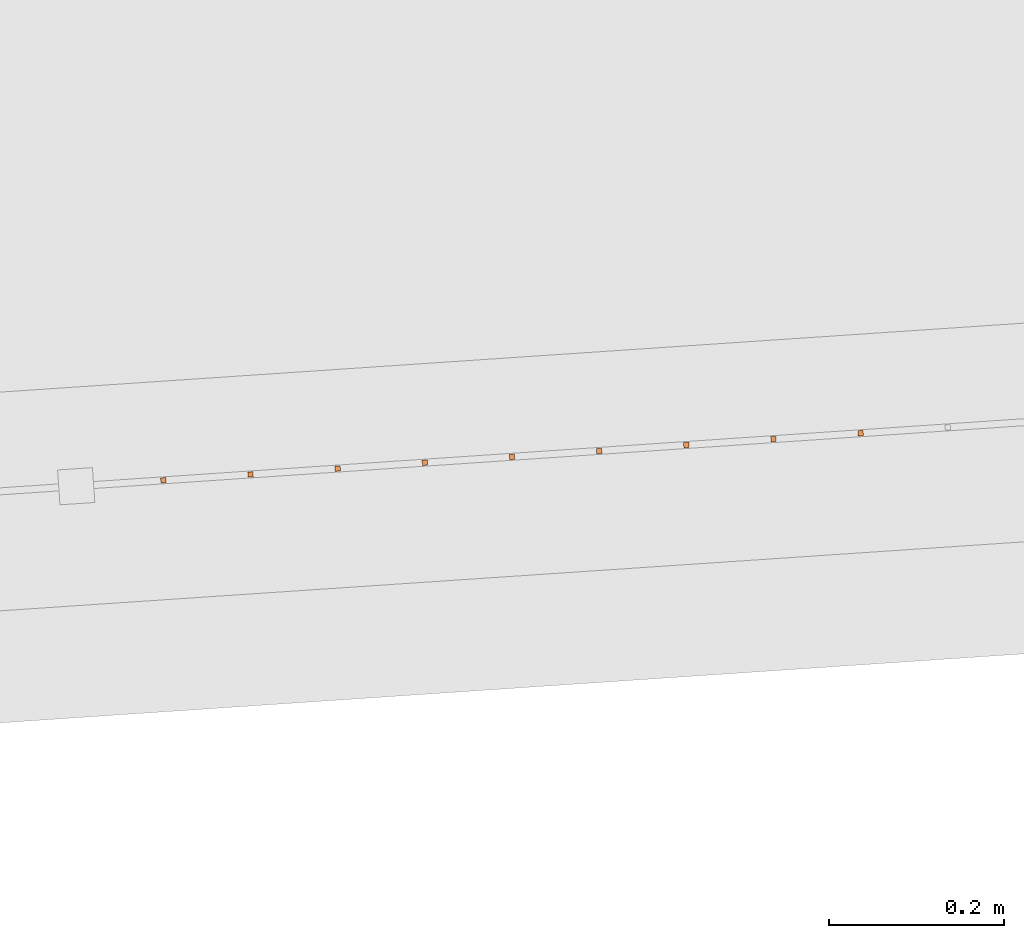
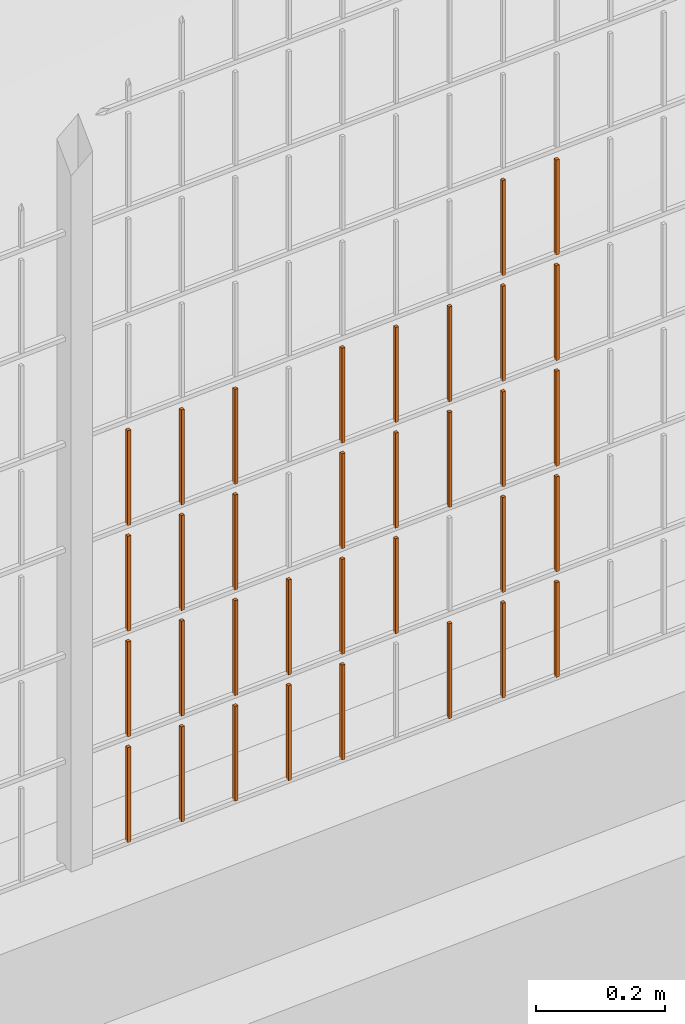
# One storey, part 154 of 1809: 34 proxies, 1 element without a shape of its own.
"""IFC2X3 building model written with IfcOpenShell, lengths in millimetres."""

import ifcopenshell
import ifcopenshell.guid

model = None  # the IFC model being written
_history = None  # IfcOwnerHistory: only IFC2X3 demands one
_inside = {}  # id of a spatial element -> (the spatial element, [elements in it])
_under = {}  # id of a project, library or spatial element -> (it, [spatial elements below it])
_declared = {}  # id of a project -> (the project, [libraries it declares])
_typed = {}  # id of a type object -> (the type object, [elements of that type])
_made_of = {}  # id of a material, layer set ... -> (it, [elements and type objects made of it])


def new_model(schema):
    """Start an empty IFC model of exactly this schema.

    Asked for "IFC4X3", IfcOpenShell would pick the latest addendum, in which some entities
    have other attributes; the version numbers below select the first issue.
    IFC2X3 requires an IfcOwnerHistory on every rooted entity: one is made here for all.
    """
    global model, _history
    if schema == "IFC4X3":
        model = ifcopenshell.file(schema_version=(4, 3, 0, 0))
    else:
        model = ifcopenshell.file(schema=schema)
    _inside.clear()
    _under.clear()
    _declared.clear()
    _typed.clear()
    _made_of.clear()
    _history = None
    if model.schema == "IFC2X3":
        org = make("IfcOrganization", Name="unknown")
        user = make(
            "IfcPersonAndOrganization",
            ThePerson=make("IfcPerson", FamilyName="unknown"),
            TheOrganization=org,
        )
        app = make(
            "IfcApplication",
            ApplicationDeveloper=org,
            Version="unknown",
            ApplicationFullName="unknown",
            ApplicationIdentifier="unknown",
        )
        _history = make(
            "IfcOwnerHistory",
            OwningUser=user,
            OwningApplication=app,
            ChangeAction="ADDED",
            CreationDate=0,
        )
    return model


def make(cls, **values):
    """One entity of the class cls with the attributes given. An attribute that is None is left unset."""
    return model.create_entity(
        cls, **{name: value for name, value in values.items() if value is not None}
    )


def entity(cls, *values):
    """Any entity or typed value of the class cls, its attributes in the order of the schema. None: left unset."""
    e = model.create_entity(cls)
    for i, value in enumerate(values):
        if value is not None:
            e[i] = value
    return e


def rooted(cls, **values):
    """An entity with a GlobalId (a new one), such as an element, a storey or a relation."""
    return make(cls, GlobalId=ifcopenshell.guid.new(), OwnerHistory=_history, **values)


def si_unit(unit_type, name, prefix=None):
    """IfcSIUnit, for example si_unit("LENGTHUNIT", "METRE", prefix="MILLI")."""
    return make("IfcSIUnit", UnitType=unit_type, Prefix=prefix, Name=name)


def converted_unit(unit_type, name, factor, base, dimensions=None, offset=None):
    """IfcConversionBasedUnit, such as the inch: factor (a typed value) times the base unit."""
    return make(
        "IfcConversionBasedUnit"
        if offset is None
        else "IfcConversionBasedUnitWithOffset",
        ConversionOffset=offset,
        Dimensions=None
        if dimensions is None
        else entity("IfcDimensionalExponents", *dimensions),
        UnitType=unit_type,
        Name=name,
        ConversionFactor=make(
            "IfcMeasureWithUnit", ValueComponent=factor, UnitComponent=base
        ),
    )


def derived_unit(unit_type, elements):
    """IfcDerivedUnit: a product of units, each with its exponent."""
    return make(
        "IfcDerivedUnit",
        Elements=[
            make("IfcDerivedUnitElement", Unit=unit, Exponent=power)
            for unit, power in elements
        ],
        UnitType=unit_type,
    )


def money_unit(currency):
    """IfcMonetaryUnit."""
    return make("IfcMonetaryUnit", Currency=currency)


def assignment(units):
    """IfcUnitAssignment: the units of a project."""
    return None if units is None else make("IfcUnitAssignment", Units=units)


def point(xyz):
    """IfcCartesianPoint."""
    return None if xyz is None else make("IfcCartesianPoint", Coordinates=xyz)


def direction(xyz):
    """IfcDirection."""
    return None if xyz is None else make("IfcDirection", DirectionRatios=xyz)


def frame(location, z_axis=None, x_axis=None):
    """IfcAxis2Placement3D, a coordinate frame: its origin and axes. An axis left out is left unset."""
    return make(
        "IfcAxis2Placement3D",
        Location=point(location),
        Axis=direction(z_axis),
        RefDirection=direction(x_axis),
    )


def origin_with_axes():
    """The frame at (0, 0, 0) with the z axis (0, 0, 1) and the x axis (1, 0, 0) written out."""
    return frame((0.0, 0.0, 0.0), z_axis=(0.0, 0.0, 1.0), x_axis=(1.0, 0.0, 0.0))


def place(relative_to, where):
    """IfcLocalPlacement: puts the frame where relative to a parent placement (None: the world)."""
    return make(
        "IfcLocalPlacement", PlacementRelTo=relative_to, RelativePlacement=where
    )


def context(
    kind, dimensions, precision=None, world=None, true_north=None, identifier=None
):
    """IfcGeometricRepresentationContext, for example the 3D "Model" context."""
    return make(
        "IfcGeometricRepresentationContext",
        ContextIdentifier=identifier,
        ContextType=kind,
        CoordinateSpaceDimension=dimensions,
        Precision=precision,
        WorldCoordinateSystem=world,
        TrueNorth=true_north,
    )


def subcontext(parent, identifier, kind, view, scale=None):
    """IfcGeometricRepresentationSubContext, for example "Body" below "Model"."""
    return make(
        "IfcGeometricRepresentationSubContext",
        ContextIdentifier=identifier,
        ContextType=kind,
        ParentContext=parent,
        TargetScale=scale,
        TargetView=view,
    )


def project(units=None, contexts=None):
    """IfcProject with its units and contexts."""
    return rooted(
        "IfcProject",
        Name="project",
        RepresentationContexts=contexts,
        UnitsInContext=assignment(units),
    )


def spatial(cls, under=None, at=None, **own):
    """A site, building, storey or space (cls), placed at a placement, below another one or the project."""
    s = rooted(cls, ObjectPlacement=at, **own)
    if under is not None:
        _under.setdefault(under.id(), (under, []))[1].append(s)
    return s


def faces_of(points, faces, orient=None, outer=None):
    """IfcFace entities. A face is a list of loops; a loop is a list of indices into points, from 0.

    orient and outer hold one flag for each loop. By default every Orientation is true, the
    first loop of a face is its IfcFaceOuterBound and the others are IfcFaceBound.
    """
    made = []
    for i, loops in enumerate(faces):
        bounds = []
        for j, loop in enumerate(loops):
            is_outer = j == 0 if outer is None else outer[i][j]
            bounds.append(
                make(
                    "IfcFaceOuterBound" if is_outer else "IfcFaceBound",
                    Bound=make("IfcPolyLoop", Polygon=[points[k] for k in loop]),
                    Orientation=True if orient is None else orient[i][j],
                )
            )
        made.append(make("IfcFace", Bounds=bounds))
    return made


def faceted_brep(points, faces, orient=None, outer=None, voids=None):
    """IfcFacetedBrep: a solid bounded by flat faces; with voids (closed shells), ...WithVoids."""
    shared = [point(p) for p in points]
    hull = make("IfcClosedShell", CfsFaces=faces_of(shared, faces, orient, outer))
    if voids is None:
        return make("IfcFacetedBrep", Outer=hull)
    return make(
        "IfcFacetedBrepWithVoids",
        Outer=hull,
        Voids=[
            make(cls, CfsFaces=faces_of(shared, fs, o, b)) for cls, fs, o, b in voids
        ],
    )


def shape(context_of_items, identifier, shape_type, items):
    """IfcShapeRepresentation: the items that make up one representation, for example the "Body"."""
    return make(
        "IfcShapeRepresentation",
        ContextOfItems=context_of_items,
        RepresentationIdentifier=identifier,
        RepresentationType=shape_type,
        Items=items,
    )


def source(mapping_origin, context_of_items, identifier, shape_type, items):
    """IfcRepresentationMap: a shape defined once, which mapped items show again and again."""
    return make(
        "IfcRepresentationMap",
        MappingOrigin=mapping_origin,
        MappedRepresentation=shape(context_of_items, identifier, shape_type, items),
    )


def transform(
    local_origin,
    x_axis=None,
    y_axis=None,
    z_axis=None,
    scale=None,
    scale2=None,
    scale3=None,
    uniform=True,
):
    """IfcCartesianTransformationOperator3D, or its non-uniform kind. x_axis, y_axis, z_axis: its Axis1, 2, 3."""
    if uniform:
        return make(
            "IfcCartesianTransformationOperator3D",
            Axis1=direction(x_axis),
            Axis2=direction(y_axis),
            LocalOrigin=point(local_origin),
            Scale=scale,
            Axis3=direction(z_axis),
        )
    return make(
        "IfcCartesianTransformationOperator3DnonUniform",
        Axis1=direction(x_axis),
        Axis2=direction(y_axis),
        LocalOrigin=point(local_origin),
        Scale=scale,
        Axis3=direction(z_axis),
        Scale2=scale2,
        Scale3=scale3,
    )


def mapped(mapping_source, mapping_target):
    """IfcMappedItem: shows the shape of a source again, moved by a transform."""
    return make(
        "IfcMappedItem", MappingSource=mapping_source, MappingTarget=mapping_target
    )


def material(Name=None, Category=None):
    """IfcMaterial."""
    return make("IfcMaterial", Name=Name, Category=Category)


def made_of(thing, what):
    """Note that an element or type object is made of a material, layer set ...; save() writes the relation."""
    if what is not None:
        _made_of.setdefault(what.id(), (what, []))[1].append(thing)
    return thing


def type_object(cls, material=None, **own):
    """A type object (cls), such as IfcWallType, which elements share."""
    return made_of(rooted(cls, **own), material)


def element(
    cls,
    number,
    at=None,
    inside=None,
    cuts=None,
    type_object=None,
    material=None,
    context=None,
    identifier="Body",
    shape_type=None,
    held_by="IfcProductDefinitionShape",
    body=None,
    shapes=None,
    **own,
):
    """One element of the class cls, such as IfcWall. Its Tag is "e" and its number.

    at: its placement. inside: the storey or other place that contains it. cuts: it is an
    opening in that element (IfcRelVoidsElement). A single representation is given by context,
    identifier, shape_type and body (its items); several are given by shapes. held_by: the class
    of the entity that holds the representations. save() writes the other relations.
    """
    e = rooted(cls, Tag="e%d" % number, ObjectPlacement=at, **own)
    if body is not None:
        shapes = [shape(context, identifier, shape_type, body)]
    if shapes is not None:
        e.Representation = make(held_by, Representations=shapes)
    if inside is not None:
        _inside.setdefault(inside.id(), (inside, []))[1].append(e)
    if cuts is not None:
        rooted(
            "IfcRelVoidsElement", RelatingBuildingElement=cuts, RelatedOpeningElement=e
        )
    if type_object is not None:
        _typed.setdefault(type_object.id(), (type_object, []))[1].append(e)
    return made_of(e, material)


def aggregate(whole, parts):
    """IfcRelAggregates: a whole, such as a stair, and the parts it consists of."""
    return rooted("IfcRelAggregates", RelatingObject=whole, RelatedObjects=parts)


def save(model, path):
    """Write the relations noted so far, then the file.

    IfcRelAggregates (storeys below a building ...), IfcRelContainedInSpatialStructure (elements
    in a storey), IfcRelDefinesByType, IfcRelAssociatesMaterial and IfcRelDeclares: one each for
    every whole, place, type object, material and project.
    """
    for whole, parts in _under.values():
        aggregate(whole, parts)
    for where, things in _inside.values():
        rooted(
            "IfcRelContainedInSpatialStructure",
            RelatedElements=things,
            RelatingStructure=where,
        )
    for kind, things in _typed.values():
        rooted("IfcRelDefinesByType", RelatedObjects=things, RelatingType=kind)
    for what, things in _made_of.values():
        rooted("IfcRelAssociatesMaterial", RelatedObjects=things, RelatingMaterial=what)
    for by, libraries in _declared.values():
        rooted("IfcRelDeclares", RelatingContext=by, RelatedDefinitions=libraries)
    model.write(path)


model = new_model("IFC2X3")

# Units and contexts
model_context = context("Model", 3, precision=0.01, world=origin_with_axes(), true_north=direction((0.0, 1.0)))
body_context = subcontext(model_context, "Body", "Model", "MODEL_VIEW")
ifc_project = project(units=[si_unit("LENGTHUNIT", "METRE", prefix="MILLI"), si_unit("AREAUNIT", "SQUARE_METRE"), si_unit("VOLUMEUNIT", "CUBIC_METRE"), converted_unit("PLANEANGLEUNIT", "DEGREE", entity("IfcPlaneAngleMeasure", 0.0174532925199), si_unit("PLANEANGLEUNIT", "RADIAN"), dimensions=[0, 0, 0, 0, 0, 0, 0]), si_unit("SOLIDANGLEUNIT", "STERADIAN"), money_unit("EUR"), converted_unit("TIMEUNIT", "Year", entity("IfcTimeMeasure", 31556926.0), si_unit("TIMEUNIT", "SECOND"), dimensions=[0, 0, 1, 0, 0, 0, 0]), si_unit("MASSUNIT", "GRAM", prefix="KILO"), si_unit("THERMODYNAMICTEMPERATUREUNIT", "DEGREE_CELSIUS"), si_unit("LUMINOUSINTENSITYUNIT", "LUMEN"), si_unit("ENERGYUNIT", "JOULE", prefix="MEGA"), derived_unit("THERMALCONDUCTANCEUNIT", [(si_unit("POWERUNIT", "WATT"), 1), (si_unit("LENGTHUNIT", "METRE"), -1), (si_unit("THERMODYNAMICTEMPERATUREUNIT", "KELVIN"), -1)]), derived_unit("SPECIFICHEATCAPACITYUNIT", [(si_unit("ENERGYUNIT", "JOULE"), 1), (si_unit("MASSUNIT", "GRAM", prefix="KILO"), -1), (si_unit("THERMODYNAMICTEMPERATUREUNIT", "KELVIN"), -1)]), derived_unit("MASSDENSITYUNIT", [(si_unit("MASSUNIT", "GRAM", prefix="KILO"), 1), (si_unit("VOLUMEUNIT", "CUBIC_METRE"), -1)])], contexts=[model_context])

# Site, building, storey
site_placement = place(None, origin_with_axes())
site = spatial("IfcSite", under=ifc_project, at=site_placement, Name="Politse- ja Piirivalveameti ning Päästeameti ühishoone", CompositionType="ELEMENT")
building_placement = place(site_placement, origin_with_axes())
building = spatial("IfcBuilding", under=site, at=building_placement, Name="Politse- ja Piirivalveameti ning Päästeameti ühishoone", CompositionType="ELEMENT")
storey_placement = place(building_placement, origin_with_axes())
storey = spatial("IfcBuildingStorey", under=building, at=storey_placement, Name="Esimene korrus", CompositionType="ELEMENT", Elevation=0.0)

# Proxies
building_element_proxy_type_1 = type_object("IfcBuildingElementProxyType", Name="Railing Type", PredefinedType="NOTDEFINED")
proxy_1_placement = place(storey_placement, frame((89252.001212, -29183.4766571, 203.661247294), z_axis=(0.0, 0.0, 1.0), x_axis=(1.0, 0.0, 0.0)))
proxy_1 = element("IfcBuildingElementProxy", 1, at=proxy_1_placement, inside=storey, type_object=building_element_proxy_type_1, Name="PIIRDEAED")
ifc_material = material(Name="ET-03_Raud")
building_element_proxy_type_2 = type_object("IfcBuildingElementProxyType", Name="IfcBuildingElementProxy", PredefinedType="NOTDEFINED")
shared_shape_1 = source(origin_with_axes(), body_context, "Body", "Brep", [
    faceted_brep([(3.0, 3.0, -0.000752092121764), (-3.0, 3.0, -0.000752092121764), (-3.0, 3.0, 179.99926046), (3.0, 3.0, 179.99926046), (3.0, -3.0, 0.000752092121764), (-3.0, -3.0, 0.000752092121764), (-3.0, -3.0, 180.000764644), (3.0, -3.0, 180.000764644)], [[[0, 1, 2, 3]], [[0, 4, 5, 1]], [[1, 5, 6, 2]], [[3, 2, 6, 7]], [[4, 0, 3, 7]], [[5, 4, 7, 6]]]),
])
proxy_2_placement = place(proxy_1_placement, frame((-81939.9754273, -22832.5108714, 206.645440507), z_axis=(0.0, 0.0, 1.0), x_axis=(1.0, 0.0, 0.0)))
proxy_2 = element("IfcBuildingElementProxy", 2, at=proxy_2_placement, type_object=building_element_proxy_type_2, material=ifc_material, Name="BALUSTER - 001", context=body_context, shape_type="MappedRepresentation", body=[
    mapped(shared_shape_1, transform((0.0, 0.0, 0.0), x_axis=(-0.0673926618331, 0.997726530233, 0.0), y_axis=(-0.997726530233, -0.0673926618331, 0.0), z_axis=(0.0, 0.0, 1.0))),
])
proxy_3_placement = place(proxy_1_placement, frame((-81939.9754273, -22832.5108714, 406.645440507), z_axis=(0.0, 0.0, 1.0), x_axis=(1.0, 0.0, 0.0)))
proxy_3 = element("IfcBuildingElementProxy", 3, at=proxy_3_placement, type_object=building_element_proxy_type_2, material=ifc_material, Name="BALUSTER - 001", context=body_context, shape_type="MappedRepresentation", body=[
    mapped(shared_shape_1, transform((0.0, 0.0, 0.0), x_axis=(-0.0673926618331, 0.997726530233, 0.0), y_axis=(-0.997726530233, -0.0673926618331, 0.0), z_axis=(0.0, 0.0, 1.0))),
])
shared_shape_2 = source(origin_with_axes(), body_context, "Body", "Brep", [
    faceted_brep([(3.0, 3.0, -0.000752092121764), (-3.0, 3.0, -0.000752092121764), (-3.0, 3.0, 179.99926046), (3.0, 3.0, 179.99926046), (3.0, -3.0, 0.000752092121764), (-3.0, -3.0, 0.000752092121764), (-3.0, -3.0, 180.000764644), (3.0, -3.0, 180.000764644)], [[[0, 1, 2, 3]], [[0, 4, 5, 1]], [[1, 5, 6, 2]], [[3, 2, 6, 7]], [[4, 0, 3, 7]], [[5, 4, 7, 6]]]),
])
proxy_4_placement = place(proxy_1_placement, frame((-81640.6574683, -22812.2930729, 6.72064971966), z_axis=(0.0, 0.0, 1.0), x_axis=(1.0, 0.0, 0.0)))
proxy_4 = element("IfcBuildingElementProxy", 4, at=proxy_4_placement, type_object=building_element_proxy_type_2, material=ifc_material, Name="BALUSTER - 001", context=body_context, shape_type="MappedRepresentation", body=[
    mapped(shared_shape_2, transform((0.0, 0.0, 0.0), x_axis=(-0.0673926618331, 0.997726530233, 0.0), y_axis=(-0.997726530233, -0.0673926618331, 0.0), z_axis=(0.0, 0.0, 1.0))),
])
proxy_5_placement = place(proxy_1_placement, frame((-81939.9754273, -22832.5108714, 6.64544050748), z_axis=(0.0, 0.0, 1.0), x_axis=(1.0, 0.0, 0.0)))
proxy_5 = element("IfcBuildingElementProxy", 5, at=proxy_5_placement, type_object=building_element_proxy_type_2, material=ifc_material, Name="BALUSTER - 001", context=body_context, shape_type="MappedRepresentation", body=[
    mapped(shared_shape_2, transform((0.0, 0.0, 0.0), x_axis=(-0.0673926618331, 0.997726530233, 0.0), y_axis=(-0.997726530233, -0.0673926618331, 0.0), z_axis=(0.0, 0.0, 1.0))),
])
shared_shape_3 = source(origin_with_axes(), body_context, "Body", "Brep", [
    faceted_brep([(3.0, 3.0, -0.000752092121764), (-3.0, 3.0, -0.000752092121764), (-3.0, 3.0, 179.99926046), (3.0, 3.0, 179.99926046), (3.0, -3.0, 0.000752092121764), (-3.0, -3.0, 0.000752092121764), (-3.0, -3.0, 180.000764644), (3.0, -3.0, 180.000764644)], [[[0, 1, 2, 3]], [[0, 4, 5, 1]], [[1, 5, 6, 2]], [[3, 2, 6, 7]], [[4, 0, 3, 7]], [[5, 4, 7, 6]]]),
])
proxy_6_placement = place(proxy_1_placement, frame((-82039.7480803, -22839.2501376, 6.62037077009), z_axis=(0.0, 0.0, 1.0), x_axis=(1.0, 0.0, 0.0)))
proxy_6 = element("IfcBuildingElementProxy", 6, at=proxy_6_placement, type_object=building_element_proxy_type_2, material=ifc_material, Name="BALUSTER - 001", context=body_context, shape_type="MappedRepresentation", body=[
    mapped(shared_shape_3, transform((0.0, 0.0, 0.0), x_axis=(-0.0673926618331, 0.997726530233, 0.0), y_axis=(-0.997726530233, -0.0673926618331, 0.0), z_axis=(0.0, 0.0, 1.0))),
])
shared_shape_4 = source(origin_with_axes(), body_context, "Body", "Brep", [
    faceted_brep([(3.0, 3.0, -0.000752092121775), (-3.0, 3.0, -0.000752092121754), (-3.0, 3.0, 179.99926046), (3.0, 3.0, 179.99926046), (3.0, -3.0, 0.000752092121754), (-3.0, -3.0, 0.000752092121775), (-3.0, -3.0, 180.000764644), (3.0, -3.0, 180.000764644)], [[[0, 1, 2, 3]], [[0, 4, 5, 1]], [[1, 5, 6, 2]], [[3, 2, 6, 7]], [[4, 0, 3, 7]], [[5, 4, 7, 6]]]),
])
proxy_7_placement = place(proxy_1_placement, frame((-81241.5668562, -22785.3360081, 406.820928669), z_axis=(0.0, 0.0, 1.0), x_axis=(1.0, 0.0, 0.0)))
proxy_7 = element("IfcBuildingElementProxy", 7, at=proxy_7_placement, type_object=building_element_proxy_type_2, material=ifc_material, Name="BALUSTER - 001", context=body_context, shape_type="MappedRepresentation", body=[
    mapped(shared_shape_4, transform((0.0, 0.0, 0.0), x_axis=(-0.0673926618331, 0.997726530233, 0.0), y_axis=(-0.997726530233, -0.0673926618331, 0.0), z_axis=(0.0, 0.0, 1.0))),
])
shared_shape_5 = source(origin_with_axes(), body_context, "Body", "Brep", [
    faceted_brep([(3.0, 3.0, -0.000752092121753), (-3.0, 3.0, -0.000752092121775), (-3.0, 3.0, 179.99926046), (3.0, 3.0, 179.99926046), (3.0, -3.0, 0.000752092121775), (-3.0, -3.0, 0.000752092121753), (-3.0, -3.0, 180.000764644), (3.0, -3.0, 180.000764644)], [[[0, 1, 2, 3]], [[0, 4, 5, 1]], [[1, 5, 6, 2]], [[3, 2, 6, 7]], [[4, 0, 3, 7]], [[5, 4, 7, 6]]]),
])
proxy_8_placement = place(proxy_1_placement, frame((-81341.3395092, -22792.0752743, 206.795858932), z_axis=(0.0, 0.0, 1.0), x_axis=(1.0, 0.0, 0.0)))
proxy_8 = element("IfcBuildingElementProxy", 8, at=proxy_8_placement, type_object=building_element_proxy_type_2, material=ifc_material, Name="BALUSTER - 001", context=body_context, shape_type="MappedRepresentation", body=[
    mapped(shared_shape_5, transform((0.0, 0.0, 0.0), x_axis=(-0.0673926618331, 0.997726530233, 0.0), y_axis=(-0.997726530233, -0.0673926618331, 0.0), z_axis=(0.0, 0.0, 1.0))),
])
shared_shape_6 = source(origin_with_axes(), body_context, "Body", "Brep", [
    faceted_brep([(3.0, 3.0, -0.000752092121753), (-3.0, 3.0, -0.000752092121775), (-3.0, 3.0, 179.99926046), (3.0, 3.0, 179.99926046), (3.0, -3.0, 0.000752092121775), (-3.0, -3.0, 0.000752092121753), (-3.0, -3.0, 180.000764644), (3.0, -3.0, 180.000764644)], [[[0, 1, 2, 3]], [[0, 4, 5, 1]], [[1, 5, 6, 2]], [[3, 2, 6, 7]], [[4, 0, 3, 7]], [[5, 4, 7, 6]]]),
])
proxy_9_placement = place(proxy_1_placement, frame((-81341.3395092, -22792.0752743, 6.79585893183), z_axis=(0.0, 0.0, 1.0), x_axis=(1.0, 0.0, 0.0)))
proxy_9 = element("IfcBuildingElementProxy", 9, at=proxy_9_placement, type_object=building_element_proxy_type_2, material=ifc_material, Name="BALUSTER - 001", context=body_context, shape_type="MappedRepresentation", body=[
    mapped(shared_shape_6, transform((0.0, 0.0, 0.0), x_axis=(-0.0673926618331, 0.997726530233, 0.0), y_axis=(-0.997726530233, -0.0673926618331, 0.0), z_axis=(0.0, 0.0, 1.0))),
])
shared_shape_7 = source(origin_with_axes(), body_context, "Body", "Brep", [
    faceted_brep([(3.0, 3.0, -0.000752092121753), (-3.0, 3.0, -0.000752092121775), (-3.0, 3.0, 179.99926046), (3.0, 3.0, 179.99926046), (3.0, -3.0, 0.000752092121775), (-3.0, -3.0, 0.000752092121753), (-3.0, -3.0, 180.000764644), (3.0, -3.0, 180.000764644)], [[[0, 1, 2, 3]], [[0, 4, 5, 1]], [[1, 5, 6, 2]], [[3, 2, 6, 7]], [[4, 0, 3, 7]], [[5, 4, 7, 6]]]),
])
proxy_10_placement = place(proxy_1_placement, frame((-81341.3395092, -22792.0752743, 406.795858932), z_axis=(0.0, 0.0, 1.0), x_axis=(1.0, 0.0, 0.0)))
proxy_10 = element("IfcBuildingElementProxy", 10, at=proxy_10_placement, type_object=building_element_proxy_type_2, material=ifc_material, Name="BALUSTER - 001", context=body_context, shape_type="MappedRepresentation", body=[
    mapped(shared_shape_7, transform((0.0, 0.0, 0.0), x_axis=(-0.0673926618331, 0.997726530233, 0.0), y_axis=(-0.997726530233, -0.0673926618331, 0.0), z_axis=(0.0, 0.0, 1.0))),
])
proxy_11_placement = place(proxy_1_placement, frame((-81341.3395092, -22792.0752743, 606.795858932), z_axis=(0.0, 0.0, 1.0), x_axis=(1.0, 0.0, 0.0)))
proxy_11 = element("IfcBuildingElementProxy", 11, at=proxy_11_placement, type_object=building_element_proxy_type_2, material=ifc_material, Name="BALUSTER - 001", context=body_context, shape_type="MappedRepresentation", body=[
    mapped(shared_shape_7, transform((0.0, 0.0, 0.0), x_axis=(-0.0673926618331, 0.997726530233, 0.0), y_axis=(-0.997726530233, -0.0673926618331, 0.0), z_axis=(0.0, 0.0, 1.0))),
])
proxy_12_placement = place(proxy_1_placement, frame((-81441.1121622, -22798.8145405, 606.770789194), z_axis=(0.0, 0.0, 1.0), x_axis=(1.0, 0.0, 0.0)))
proxy_12 = element("IfcBuildingElementProxy", 12, at=proxy_12_placement, type_object=building_element_proxy_type_2, material=ifc_material, Name="BALUSTER - 001", context=body_context, shape_type="MappedRepresentation", body=[
    mapped(shared_shape_7, transform((0.0, 0.0, 0.0), x_axis=(-0.0673926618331, 0.997726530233, 0.0), y_axis=(-0.997726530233, -0.0673926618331, 0.0), z_axis=(0.0, 0.0, 1.0))),
])
shared_shape_8 = source(origin_with_axes(), body_context, "Body", "Brep", [
    faceted_brep([(3.0, 3.0, -0.000752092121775), (-3.0, 3.0, -0.000752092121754), (-3.0, 3.0, 179.99926046), (3.0, 3.0, 179.99926046), (3.0, -3.0, 0.000752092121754), (-3.0, -3.0, 0.000752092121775), (-3.0, -3.0, 180.000764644), (3.0, -3.0, 180.000764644)], [[[0, 1, 2, 3]], [[0, 4, 5, 1]], [[1, 5, 6, 2]], [[3, 2, 6, 7]], [[4, 0, 3, 7]], [[5, 4, 7, 6]]]),
])
proxy_13_placement = place(proxy_1_placement, frame((-81241.5668562, -22785.3360081, 806.820928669), z_axis=(0.0, 0.0, 1.0), x_axis=(1.0, 0.0, 0.0)))
proxy_13 = element("IfcBuildingElementProxy", 13, at=proxy_13_placement, type_object=building_element_proxy_type_2, material=ifc_material, Name="BALUSTER - 001", context=body_context, shape_type="MappedRepresentation", body=[
    mapped(shared_shape_8, transform((0.0, 0.0, 0.0), x_axis=(-0.0673926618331, 0.997726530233, 0.0), y_axis=(-0.997726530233, -0.0673926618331, 0.0), z_axis=(0.0, 0.0, 1.0))),
])
shared_shape_9 = source(origin_with_axes(), body_context, "Body", "Brep", [
    faceted_brep([(3.0, 3.0, -0.000752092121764), (-3.0, 3.0, -0.000752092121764), (-3.0, 3.0, 179.99926046), (3.0, 3.0, 179.99926046), (3.0, -3.0, 0.000752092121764), (-3.0, -3.0, 0.000752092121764), (-3.0, -3.0, 180.000764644), (3.0, -3.0, 180.000764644)], [[[0, 1, 2, 3]], [[0, 4, 5, 1]], [[1, 5, 6, 2]], [[3, 2, 6, 7]], [[4, 0, 3, 7]], [[5, 4, 7, 6]]]),
])
proxy_14_placement = place(proxy_1_placement, frame((-81840.2027743, -22825.7716052, 406.670510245), z_axis=(0.0, 0.0, 1.0), x_axis=(1.0, 0.0, 0.0)))
proxy_14 = element("IfcBuildingElementProxy", 14, at=proxy_14_placement, type_object=building_element_proxy_type_2, material=ifc_material, Name="BALUSTER - 001", context=body_context, shape_type="MappedRepresentation", body=[
    mapped(shared_shape_9, transform((0.0, 0.0, 0.0), x_axis=(-0.0673926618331, 0.997726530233, 0.0), y_axis=(-0.997726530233, -0.0673926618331, 0.0), z_axis=(0.0, 0.0, 1.0))),
])
proxy_15_placement = place(proxy_1_placement, frame((-81939.9754273, -22832.5108714, 606.645440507), z_axis=(0.0, 0.0, 1.0), x_axis=(1.0, 0.0, 0.0)))
proxy_15 = element("IfcBuildingElementProxy", 15, at=proxy_15_placement, type_object=building_element_proxy_type_2, material=ifc_material, Name="BALUSTER - 001", context=body_context, shape_type="MappedRepresentation", body=[
    mapped(shared_shape_9, transform((0.0, 0.0, 0.0), x_axis=(-0.0673926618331, 0.997726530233, 0.0), y_axis=(-0.997726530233, -0.0673926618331, 0.0), z_axis=(0.0, 0.0, 1.0))),
])
shared_shape_10 = source(origin_with_axes(), body_context, "Body", "Brep", [
    faceted_brep([(3.0, 3.0, -0.000752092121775), (-3.0, 3.0, -0.000752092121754), (-3.0, 3.0, 179.99926046), (3.0, 3.0, 179.99926046), (3.0, -3.0, 0.000752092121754), (-3.0, -3.0, 0.000752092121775), (-3.0, -3.0, 180.000764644), (3.0, -3.0, 180.000764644)], [[[0, 1, 2, 3]], [[0, 4, 5, 1]], [[1, 5, 6, 2]], [[3, 2, 6, 7]], [[4, 0, 3, 7]], [[5, 4, 7, 6]]]),
])
proxy_16_placement = place(proxy_1_placement, frame((-81241.5668562, -22785.3360081, 606.820928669), z_axis=(0.0, 0.0, 1.0), x_axis=(1.0, 0.0, 0.0)))
proxy_16 = element("IfcBuildingElementProxy", 16, at=proxy_16_placement, type_object=building_element_proxy_type_2, material=ifc_material, Name="BALUSTER - 001", context=body_context, shape_type="MappedRepresentation", body=[
    mapped(shared_shape_10, transform((0.0, 0.0, 0.0), x_axis=(-0.0673926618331, 0.997726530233, 0.0), y_axis=(-0.997726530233, -0.0673926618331, 0.0), z_axis=(0.0, 0.0, 1.0))),
])
shared_shape_11 = source(origin_with_axes(), body_context, "Body", "Brep", [
    faceted_brep([(3.0, 3.0, -0.000752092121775), (-3.0, 3.0, -0.000752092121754), (-3.0, 3.0, 179.99926046), (3.0, 3.0, 179.99926046), (3.0, -3.0, 0.000752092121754), (-3.0, -3.0, 0.000752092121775), (-3.0, -3.0, 180.000764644), (3.0, -3.0, 180.000764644)], [[[0, 1, 2, 3]], [[0, 4, 5, 1]], [[1, 5, 6, 2]], [[3, 2, 6, 7]], [[4, 0, 3, 7]], [[5, 4, 7, 6]]]),
])
proxy_17_placement = place(proxy_1_placement, frame((-81241.5668562, -22785.3360081, 6.82092866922), z_axis=(0.0, 0.0, 1.0), x_axis=(1.0, 0.0, 0.0)))
proxy_17 = element("IfcBuildingElementProxy", 17, at=proxy_17_placement, type_object=building_element_proxy_type_2, material=ifc_material, Name="BALUSTER - 001", context=body_context, shape_type="MappedRepresentation", body=[
    mapped(shared_shape_11, transform((0.0, 0.0, 0.0), x_axis=(-0.0673926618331, 0.997726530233, 0.0), y_axis=(-0.997726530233, -0.0673926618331, 0.0), z_axis=(0.0, 0.0, 1.0))),
])
proxy_18_placement = place(proxy_1_placement, frame((-81241.5668562, -22785.3360081, 206.820928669), z_axis=(0.0, 0.0, 1.0), x_axis=(1.0, 0.0, 0.0)))
proxy_18 = element("IfcBuildingElementProxy", 18, at=proxy_18_placement, type_object=building_element_proxy_type_2, material=ifc_material, Name="BALUSTER - 001", context=body_context, shape_type="MappedRepresentation", body=[
    mapped(shared_shape_11, transform((0.0, 0.0, 0.0), x_axis=(-0.0673926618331, 0.997726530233, 0.0), y_axis=(-0.997726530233, -0.0673926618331, 0.0), z_axis=(0.0, 0.0, 1.0))),
])
shared_shape_12 = source(origin_with_axes(), body_context, "Body", "Brep", [
    faceted_brep([(3.0, 3.0, -0.000752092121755), (-3.0, 3.0, -0.000752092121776), (-3.0, 3.0, 179.99926046), (3.0, 3.0, 179.99926046), (3.0, -3.0, 0.000752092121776), (-3.0, -3.0, 0.000752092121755), (-3.0, -3.0, 180.000764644), (3.0, -3.0, 180.000764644)], [[[0, 1, 2, 3]], [[0, 4, 5, 1]], [[1, 5, 6, 2]], [[3, 2, 6, 7]], [[4, 0, 3, 7]], [[5, 4, 7, 6]]]),
])
proxy_19_placement = place(proxy_1_placement, frame((-81441.1121622, -22798.8145405, 6.77078919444), z_axis=(0.0, 0.0, 1.0), x_axis=(1.0, 0.0, 0.0)))
proxy_19 = element("IfcBuildingElementProxy", 19, at=proxy_19_placement, type_object=building_element_proxy_type_2, material=ifc_material, Name="BALUSTER - 001", context=body_context, shape_type="MappedRepresentation", body=[
    mapped(shared_shape_12, transform((0.0, 0.0, 0.0), x_axis=(-0.0673926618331, 0.997726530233, 0.0), y_axis=(-0.997726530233, -0.0673926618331, 0.0), z_axis=(0.0, 0.0, 1.0))),
])
shared_shape_13 = source(origin_with_axes(), body_context, "Body", "Brep", [
    faceted_brep([(3.0, 3.0, -0.000752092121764), (-3.0, 3.0, -0.000752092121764), (-3.0, 3.0, 179.99926046), (3.0, 3.0, 179.99926046), (3.0, -3.0, 0.000752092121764), (-3.0, -3.0, 0.000752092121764), (-3.0, -3.0, 180.000764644), (3.0, -3.0, 180.000764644)], [[[0, 1, 2, 3]], [[0, 4, 5, 1]], [[1, 5, 6, 2]], [[3, 2, 6, 7]], [[4, 0, 3, 7]], [[5, 4, 7, 6]]]),
])
proxy_20_placement = place(proxy_1_placement, frame((-81740.4301213, -22819.032339, 6.69557998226), z_axis=(0.0, 0.0, 1.0), x_axis=(1.0, 0.0, 0.0)))
proxy_20 = element("IfcBuildingElementProxy", 20, at=proxy_20_placement, type_object=building_element_proxy_type_2, material=ifc_material, Name="BALUSTER - 001", context=body_context, shape_type="MappedRepresentation", body=[
    mapped(shared_shape_13, transform((0.0, 0.0, 0.0), x_axis=(-0.0673926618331, 0.997726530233, 0.0), y_axis=(-0.997726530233, -0.0673926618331, 0.0), z_axis=(0.0, 0.0, 1.0))),
])
proxy_21_placement = place(proxy_1_placement, frame((-81740.4301213, -22819.032339, 206.695579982), z_axis=(0.0, 0.0, 1.0), x_axis=(1.0, 0.0, 0.0)))
proxy_21 = element("IfcBuildingElementProxy", 21, at=proxy_21_placement, type_object=building_element_proxy_type_2, material=ifc_material, Name="BALUSTER - 001", context=body_context, shape_type="MappedRepresentation", body=[
    mapped(shared_shape_13, transform((0.0, 0.0, 0.0), x_axis=(-0.0673926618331, 0.997726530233, 0.0), y_axis=(-0.997726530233, -0.0673926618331, 0.0), z_axis=(0.0, 0.0, 1.0))),
])
shared_shape_14 = source(origin_with_axes(), body_context, "Body", "Brep", [
    faceted_brep([(3.0, 3.0, -0.000752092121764), (-3.0, 3.0, -0.000752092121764), (-3.0, 3.0, 179.99926046), (3.0, 3.0, 179.99926046), (3.0, -3.0, 0.000752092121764), (-3.0, -3.0, 0.000752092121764), (-3.0, -3.0, 180.000764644), (3.0, -3.0, 180.000764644)], [[[0, 1, 2, 3]], [[0, 4, 5, 1]], [[1, 5, 6, 2]], [[3, 2, 6, 7]], [[4, 0, 3, 7]], [[5, 4, 7, 6]]]),
])
proxy_22_placement = place(proxy_1_placement, frame((-81840.2027743, -22825.7716052, 6.67051024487), z_axis=(0.0, 0.0, 1.0), x_axis=(1.0, 0.0, 0.0)))
proxy_22 = element("IfcBuildingElementProxy", 22, at=proxy_22_placement, type_object=building_element_proxy_type_2, material=ifc_material, Name="BALUSTER - 001", context=body_context, shape_type="MappedRepresentation", body=[
    mapped(shared_shape_14, transform((0.0, 0.0, 0.0), x_axis=(-0.0673926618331, 0.997726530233, 0.0), y_axis=(-0.997726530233, -0.0673926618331, 0.0), z_axis=(0.0, 0.0, 1.0))),
])
shared_shape_15 = source(origin_with_axes(), body_context, "Body", "Brep", [
    faceted_brep([(3.0, 3.0, -0.000752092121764), (-3.0, 3.0, -0.000752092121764), (-3.0, 3.0, 179.99926046), (3.0, 3.0, 179.99926046), (3.0, -3.0, 0.000752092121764), (-3.0, -3.0, 0.000752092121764), (-3.0, -3.0, 180.000764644), (3.0, -3.0, 180.000764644)], [[[0, 1, 2, 3]], [[0, 4, 5, 1]], [[1, 5, 6, 2]], [[3, 2, 6, 7]], [[4, 0, 3, 7]], [[5, 4, 7, 6]]]),
])
proxy_23_placement = place(proxy_1_placement, frame((-81540.8848152, -22805.5538067, 206.745719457), z_axis=(0.0, 0.0, 1.0), x_axis=(1.0, 0.0, 0.0)))
proxy_23 = element("IfcBuildingElementProxy", 23, at=proxy_23_placement, type_object=building_element_proxy_type_2, material=ifc_material, Name="BALUSTER - 001", context=body_context, shape_type="MappedRepresentation", body=[
    mapped(shared_shape_15, transform((0.0, 0.0, 0.0), x_axis=(-0.0673926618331, 0.997726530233, 0.0), y_axis=(-0.997726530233, -0.0673926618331, 0.0), z_axis=(0.0, 0.0, 1.0))),
])
proxy_24_placement = place(proxy_1_placement, frame((-81540.8848152, -22805.5538067, 606.745719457), z_axis=(0.0, 0.0, 1.0), x_axis=(1.0, 0.0, 0.0)))
proxy_24 = element("IfcBuildingElementProxy", 24, at=proxy_24_placement, type_object=building_element_proxy_type_2, material=ifc_material, Name="BALUSTER - 001", context=body_context, shape_type="MappedRepresentation", body=[
    mapped(shared_shape_15, transform((0.0, 0.0, 0.0), x_axis=(-0.0673926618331, 0.997726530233, 0.0), y_axis=(-0.997726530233, -0.0673926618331, 0.0), z_axis=(0.0, 0.0, 1.0))),
])
shared_shape_16 = source(origin_with_axes(), body_context, "Body", "Brep", [
    faceted_brep([(3.0, 3.0, -0.000752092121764), (-3.0, 3.0, -0.000752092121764), (-3.0, 3.0, 179.99926046), (3.0, 3.0, 179.99926046), (3.0, -3.0, 0.000752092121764), (-3.0, -3.0, 0.000752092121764), (-3.0, -3.0, 180.000764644), (3.0, -3.0, 180.000764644)], [[[0, 1, 2, 3]], [[0, 4, 5, 1]], [[1, 5, 6, 2]], [[3, 2, 6, 7]], [[4, 0, 3, 7]], [[5, 4, 7, 6]]]),
])
proxy_25_placement = place(proxy_1_placement, frame((-81640.6574683, -22812.2930729, 206.72064972), z_axis=(0.0, 0.0, 1.0), x_axis=(1.0, 0.0, 0.0)))
proxy_25 = element("IfcBuildingElementProxy", 25, at=proxy_25_placement, type_object=building_element_proxy_type_2, material=ifc_material, Name="BALUSTER - 001", context=body_context, shape_type="MappedRepresentation", body=[
    mapped(shared_shape_16, transform((0.0, 0.0, 0.0), x_axis=(-0.0673926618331, 0.997726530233, 0.0), y_axis=(-0.997726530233, -0.0673926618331, 0.0), z_axis=(0.0, 0.0, 1.0))),
])
shared_shape_17 = source(origin_with_axes(), body_context, "Body", "Brep", [
    faceted_brep([(3.0, 3.0, -0.000752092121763), (-3.0, 3.0, -0.000752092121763), (-3.0, 3.0, 179.99926046), (3.0, 3.0, 179.99926046), (3.0, -3.0, 0.000752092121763), (-3.0, -3.0, 0.000752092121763), (-3.0, -3.0, 180.000764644), (3.0, -3.0, 180.000764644)], [[[0, 1, 2, 3]], [[0, 4, 5, 1]], [[1, 5, 6, 2]], [[3, 2, 6, 7]], [[4, 0, 3, 7]], [[5, 4, 7, 6]]]),
])
proxy_26_placement = place(proxy_1_placement, frame((-81840.2027743, -22825.7716052, 206.670510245), z_axis=(0.0, 0.0, 1.0), x_axis=(1.0, 0.0, 0.0)))
proxy_26 = element("IfcBuildingElementProxy", 26, at=proxy_26_placement, type_object=building_element_proxy_type_2, material=ifc_material, Name="BALUSTER - 001", context=body_context, shape_type="MappedRepresentation", body=[
    mapped(shared_shape_17, transform((0.0, 0.0, 0.0), x_axis=(-0.0673926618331, 0.997726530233, 0.0), y_axis=(-0.997726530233, -0.0673926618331, 0.0), z_axis=(0.0, 0.0, 1.0))),
])
shared_shape_18 = source(origin_with_axes(), body_context, "Body", "Brep", [
    faceted_brep([(3.0, 3.0, -0.000752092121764), (-3.0, 3.0, -0.000752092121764), (-3.0, 3.0, 179.99926046), (3.0, 3.0, 179.99926046), (3.0, -3.0, 0.000752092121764), (-3.0, -3.0, 0.000752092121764), (-3.0, -3.0, 180.000764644), (3.0, -3.0, 180.000764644)], [[[0, 1, 2, 3]], [[0, 4, 5, 1]], [[1, 5, 6, 2]], [[3, 2, 6, 7]], [[4, 0, 3, 7]], [[5, 4, 7, 6]]]),
])
proxy_27_placement = place(proxy_1_placement, frame((-82039.7480803, -22839.2501376, 206.62037077), z_axis=(0.0, 0.0, 1.0), x_axis=(1.0, 0.0, 0.0)))
proxy_27 = element("IfcBuildingElementProxy", 27, at=proxy_27_placement, type_object=building_element_proxy_type_2, material=ifc_material, Name="BALUSTER - 001", context=body_context, shape_type="MappedRepresentation", body=[
    mapped(shared_shape_18, transform((0.0, 0.0, 0.0), x_axis=(-0.0673926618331, 0.997726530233, 0.0), y_axis=(-0.997726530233, -0.0673926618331, 0.0), z_axis=(0.0, 0.0, 1.0))),
])
shared_shape_19 = source(origin_with_axes(), body_context, "Body", "Brep", [
    faceted_brep([(3.0, 3.0, -0.000752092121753), (-3.0, 3.0, -0.000752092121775), (-3.0, 3.0, 179.99926046), (3.0, 3.0, 179.99926046), (3.0, -3.0, 0.000752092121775), (-3.0, -3.0, 0.000752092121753), (-3.0, -3.0, 180.000764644), (3.0, -3.0, 180.000764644)], [[[0, 1, 2, 3]], [[0, 4, 5, 1]], [[1, 5, 6, 2]], [[3, 2, 6, 7]], [[4, 0, 3, 7]], [[5, 4, 7, 6]]]),
])
proxy_28_placement = place(proxy_1_placement, frame((-81441.1121622, -22798.8145405, 406.770789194), z_axis=(0.0, 0.0, 1.0), x_axis=(1.0, 0.0, 0.0)))
proxy_28 = element("IfcBuildingElementProxy", 28, at=proxy_28_placement, type_object=building_element_proxy_type_2, material=ifc_material, Name="BALUSTER - 001", context=body_context, shape_type="MappedRepresentation", body=[
    mapped(shared_shape_19, transform((0.0, 0.0, 0.0), x_axis=(-0.0673926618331, 0.997726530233, 0.0), y_axis=(-0.997726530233, -0.0673926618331, 0.0), z_axis=(0.0, 0.0, 1.0))),
])
shared_shape_20 = source(origin_with_axes(), body_context, "Body", "Brep", [
    faceted_brep([(3.0, 3.0, -0.000752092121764), (-3.0, 3.0, -0.000752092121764), (-3.0, 3.0, 179.99926046), (3.0, 3.0, 179.99926046), (3.0, -3.0, 0.000752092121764), (-3.0, -3.0, 0.000752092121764), (-3.0, -3.0, 180.000764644), (3.0, -3.0, 180.000764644)], [[[0, 1, 2, 3]], [[0, 4, 5, 1]], [[1, 5, 6, 2]], [[3, 2, 6, 7]], [[4, 0, 3, 7]], [[5, 4, 7, 6]]]),
])
proxy_29_placement = place(proxy_1_placement, frame((-81540.8848152, -22805.5538067, 406.745719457), z_axis=(0.0, 0.0, 1.0), x_axis=(1.0, 0.0, 0.0)))
proxy_29 = element("IfcBuildingElementProxy", 29, at=proxy_29_placement, type_object=building_element_proxy_type_2, material=ifc_material, Name="BALUSTER - 001", context=body_context, shape_type="MappedRepresentation", body=[
    mapped(shared_shape_20, transform((0.0, 0.0, 0.0), x_axis=(-0.0673926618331, 0.997726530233, 0.0), y_axis=(-0.997726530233, -0.0673926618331, 0.0), z_axis=(0.0, 0.0, 1.0))),
])
shared_shape_21 = source(origin_with_axes(), body_context, "Body", "Brep", [
    faceted_brep([(3.0, 3.0, -0.000752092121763), (-3.0, 3.0, -0.000752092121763), (-3.0, 3.0, 179.99926046), (3.0, 3.0, 179.99926046), (3.0, -3.0, 0.000752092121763), (-3.0, -3.0, 0.000752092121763), (-3.0, -3.0, 180.000764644), (3.0, -3.0, 180.000764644)], [[[0, 1, 2, 3]], [[0, 4, 5, 1]], [[1, 5, 6, 2]], [[3, 2, 6, 7]], [[4, 0, 3, 7]], [[5, 4, 7, 6]]]),
])
proxy_30_placement = place(proxy_1_placement, frame((-81640.6574683, -22812.2930729, 406.72064972), z_axis=(0.0, 0.0, 1.0), x_axis=(1.0, 0.0, 0.0)))
proxy_30 = element("IfcBuildingElementProxy", 30, at=proxy_30_placement, type_object=building_element_proxy_type_2, material=ifc_material, Name="BALUSTER - 001", context=body_context, shape_type="MappedRepresentation", body=[
    mapped(shared_shape_21, transform((0.0, 0.0, 0.0), x_axis=(-0.0673926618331, 0.997726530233, 0.0), y_axis=(-0.997726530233, -0.0673926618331, 0.0), z_axis=(0.0, 0.0, 1.0))),
])
shared_shape_22 = source(origin_with_axes(), body_context, "Body", "Brep", [
    faceted_brep([(3.0, 3.0, -0.000752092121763), (-3.0, 3.0, -0.000752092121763), (-3.0, 3.0, 179.99926046), (3.0, 3.0, 179.99926046), (3.0, -3.0, 0.000752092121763), (-3.0, -3.0, 0.000752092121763), (-3.0, -3.0, 180.000764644), (3.0, -3.0, 180.000764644)], [[[0, 1, 2, 3]], [[0, 4, 5, 1]], [[1, 5, 6, 2]], [[3, 2, 6, 7]], [[4, 0, 3, 7]], [[5, 4, 7, 6]]]),
])
proxy_31_placement = place(proxy_1_placement, frame((-82039.7480803, -22839.2501376, 406.62037077), z_axis=(0.0, 0.0, 1.0), x_axis=(1.0, 0.0, 0.0)))
proxy_31 = element("IfcBuildingElementProxy", 31, at=proxy_31_placement, type_object=building_element_proxy_type_2, material=ifc_material, Name="BALUSTER - 001", context=body_context, shape_type="MappedRepresentation", body=[
    mapped(shared_shape_22, transform((0.0, 0.0, 0.0), x_axis=(-0.0673926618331, 0.997726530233, 0.0), y_axis=(-0.997726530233, -0.0673926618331, 0.0), z_axis=(0.0, 0.0, 1.0))),
])
shared_shape_23 = source(origin_with_axes(), body_context, "Body", "Brep", [
    faceted_brep([(3.0, 3.0, -0.000752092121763), (-3.0, 3.0, -0.000752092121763), (-3.0, 3.0, 179.99926046), (3.0, 3.0, 179.99926046), (3.0, -3.0, 0.000752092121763), (-3.0, -3.0, 0.000752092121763), (-3.0, -3.0, 180.000764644), (3.0, -3.0, 180.000764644)], [[[0, 1, 2, 3]], [[0, 4, 5, 1]], [[1, 5, 6, 2]], [[3, 2, 6, 7]], [[4, 0, 3, 7]], [[5, 4, 7, 6]]]),
])
proxy_32_placement = place(proxy_1_placement, frame((-81640.6574683, -22812.2930729, 606.72064972), z_axis=(0.0, 0.0, 1.0), x_axis=(1.0, 0.0, 0.0)))
proxy_32 = element("IfcBuildingElementProxy", 32, at=proxy_32_placement, type_object=building_element_proxy_type_2, material=ifc_material, Name="BALUSTER - 001", context=body_context, shape_type="MappedRepresentation", body=[
    mapped(shared_shape_23, transform((0.0, 0.0, 0.0), x_axis=(-0.0673926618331, 0.997726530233, 0.0), y_axis=(-0.997726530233, -0.0673926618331, 0.0), z_axis=(0.0, 0.0, 1.0))),
])
shared_shape_24 = source(origin_with_axes(), body_context, "Body", "Brep", [
    faceted_brep([(3.0, 3.0, -0.000752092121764), (-3.0, 3.0, -0.000752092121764), (-3.0, 3.0, 179.99926046), (3.0, 3.0, 179.99926046), (3.0, -3.0, 0.000752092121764), (-3.0, -3.0, 0.000752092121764), (-3.0, -3.0, 180.000764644), (3.0, -3.0, 180.000764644)], [[[0, 1, 2, 3]], [[0, 4, 5, 1]], [[1, 5, 6, 2]], [[3, 2, 6, 7]], [[4, 0, 3, 7]], [[5, 4, 7, 6]]]),
])
proxy_33_placement = place(proxy_1_placement, frame((-81840.2027743, -22825.7716052, 606.670510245), z_axis=(0.0, 0.0, 1.0), x_axis=(1.0, 0.0, 0.0)))
proxy_33 = element("IfcBuildingElementProxy", 33, at=proxy_33_placement, type_object=building_element_proxy_type_2, material=ifc_material, Name="BALUSTER - 001", context=body_context, shape_type="MappedRepresentation", body=[
    mapped(shared_shape_24, transform((0.0, 0.0, 0.0), x_axis=(-0.0673926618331, 0.997726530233, 0.0), y_axis=(-0.997726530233, -0.0673926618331, 0.0), z_axis=(0.0, 0.0, 1.0))),
])
shared_shape_25 = source(origin_with_axes(), body_context, "Body", "Brep", [
    faceted_brep([(3.0, 3.0, -0.000752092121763), (-3.0, 3.0, -0.000752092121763), (-3.0, 3.0, 179.99926046), (3.0, 3.0, 179.99926046), (3.0, -3.0, 0.000752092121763), (-3.0, -3.0, 0.000752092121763), (-3.0, -3.0, 180.000764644), (3.0, -3.0, 180.000764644)], [[[0, 1, 2, 3]], [[0, 4, 5, 1]], [[1, 5, 6, 2]], [[3, 2, 6, 7]], [[4, 0, 3, 7]], [[5, 4, 7, 6]]]),
])
proxy_34_placement = place(proxy_1_placement, frame((-82039.7480803, -22839.2501376, 606.62037077), z_axis=(0.0, 0.0, 1.0), x_axis=(1.0, 0.0, 0.0)))
proxy_34 = element("IfcBuildingElementProxy", 34, at=proxy_34_placement, type_object=building_element_proxy_type_2, material=ifc_material, Name="BALUSTER - 001", context=body_context, shape_type="MappedRepresentation", body=[
    mapped(shared_shape_25, transform((0.0, 0.0, 0.0), x_axis=(-0.0673926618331, 0.997726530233, 0.0), y_axis=(-0.997726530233, -0.0673926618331, 0.0), z_axis=(0.0, 0.0, 1.0))),
])
shared_shape_26 = source(origin_with_axes(), body_context, "Body", "Brep", [
    faceted_brep([(3.0, 3.0, -0.000752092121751), (-3.0, 3.0, -0.000752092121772), (-3.0, 3.0, 179.99926046), (3.0, 3.0, 179.99926046), (3.0, -3.0, 0.000752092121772), (-3.0, -3.0, 0.000752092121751), (-3.0, -3.0, 180.000764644), (3.0, -3.0, 180.000764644)], [[[0, 1, 2, 3]], [[0, 4, 5, 1]], [[1, 5, 6, 2]], [[3, 2, 6, 7]], [[4, 0, 3, 7]], [[5, 4, 7, 6]]]),
])
proxy_35_placement = place(proxy_1_placement, frame((-81341.3395092, -22792.0752743, 806.795858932), z_axis=(0.0, 0.0, 1.0), x_axis=(1.0, 0.0, 0.0)))
proxy_35 = element("IfcBuildingElementProxy", 35, at=proxy_35_placement, type_object=building_element_proxy_type_2, material=ifc_material, Name="BALUSTER - 001", context=body_context, shape_type="MappedRepresentation", body=[
    mapped(shared_shape_26, transform((0.0, 0.0, 0.0), x_axis=(-0.0673926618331, 0.997726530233, 0.0), y_axis=(-0.997726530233, -0.0673926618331, 0.0), z_axis=(0.0, 0.0, 1.0))),
])
aggregate(proxy_1, [proxy_17, proxy_9, proxy_19, proxy_4, proxy_20, proxy_22, proxy_5, proxy_6, proxy_18, proxy_8, proxy_23, proxy_25, proxy_21, proxy_26, proxy_2, proxy_27, proxy_7, proxy_10, proxy_28, proxy_29, proxy_30, proxy_14, proxy_3, proxy_31, proxy_16, proxy_11, proxy_12, proxy_24, proxy_32, proxy_33, proxy_15, proxy_34, proxy_13, proxy_35])

save(model, "model.ifc")
